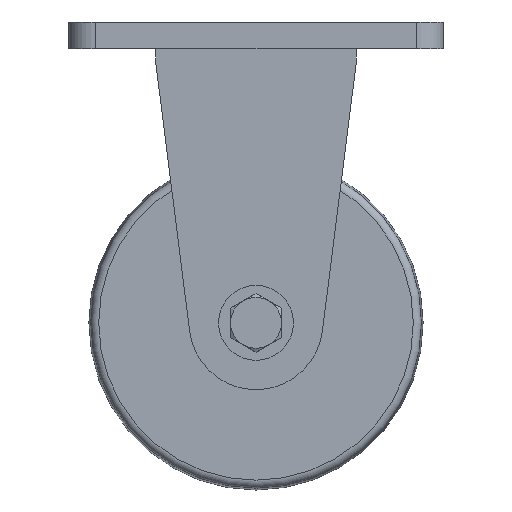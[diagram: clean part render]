
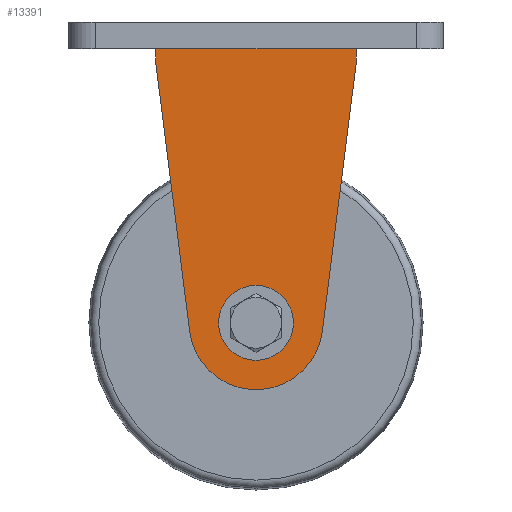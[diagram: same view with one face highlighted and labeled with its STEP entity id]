
A CAD part, front view. The second image highlights one B-rep face of the part: STEP entity #13391.
In plain terms, the highlighted planar face has unit normal (0, -1, 0).
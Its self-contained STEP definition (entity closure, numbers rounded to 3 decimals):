
#653=CARTESIAN_POINT('',(60.051,-119.818,-43.75));
#654=VERTEX_POINT('',#653);
#655=CARTESIAN_POINT('',(74.051,-119.818,-43.75));
#656=DIRECTION('',(0.0,1.0,0.0));
#657=DIRECTION('',(1.0,0.0,0.0));
#658=AXIS2_PLACEMENT_3D('',#655,#656,#657);
#659=CIRCLE('',#658,14.);
#660=EDGE_CURVE('',#654,#654,#659,.T.);
#13209=CARTESIAN_POINT('',(111.551,-119.818,58.75));
#13210=VERTEX_POINT('',#13209);
#13211=CARTESIAN_POINT('',(111.551,-119.818,53.75));
#13212=VERTEX_POINT('',#13211);
#13213=CARTESIAN_POINT('',(111.551,-119.818,58.75));
#13214=DIRECTION('',(0.0,0.0,-1.0));
#13215=VECTOR('',#13214,5.);
#13216=LINE('',#13213,#13215);
#13217=EDGE_CURVE('',#13210,#13212,#13216,.T.);
#13249=CARTESIAN_POINT('',(98.855,-119.818,-46.879));
#13250=VERTEX_POINT('',#13249);
#13251=CARTESIAN_POINT('',(111.551,-119.818,53.75));
#13252=DIRECTION('',(-0.125,0.0,-0.992));
#13253=VECTOR('',#13252,101.427);
#13254=LINE('',#13251,#13253);
#13255=EDGE_CURVE('',#13212,#13250,#13254,.T.);
#13280=CARTESIAN_POINT('',(49.248,-119.818,-46.879));
#13281=VERTEX_POINT('',#13280);
#13282=CARTESIAN_POINT('',(74.051,-119.818,-43.75));
#13283=DIRECTION('',(0.0,1.0,0.0));
#13284=DIRECTION('',(1.0,0.0,0.0));
#13285=AXIS2_PLACEMENT_3D('',#13282,#13283,#13284);
#13286=CIRCLE('',#13285,25.0);
#13287=EDGE_CURVE('',#13250,#13281,#13286,.T.);
#13313=CARTESIAN_POINT('',(36.551,-119.818,53.75));
#13314=VERTEX_POINT('',#13313);
#13315=CARTESIAN_POINT('',(49.248,-119.818,-46.879));
#13316=DIRECTION('',(-0.125,0.0,0.992));
#13317=VECTOR('',#13316,101.427);
#13318=LINE('',#13315,#13317);
#13319=EDGE_CURVE('',#13281,#13314,#13318,.T.);
#13344=CARTESIAN_POINT('',(36.551,-119.818,58.75));
#13345=VERTEX_POINT('',#13344);
#13346=CARTESIAN_POINT('',(36.551,-119.818,53.75));
#13347=DIRECTION('',(0.0,0.0,1.0));
#13348=VECTOR('',#13347,5.);
#13349=LINE('',#13346,#13348);
#13350=EDGE_CURVE('',#13314,#13345,#13349,.T.);
#13370=CARTESIAN_POINT('',(74.051,-119.818,3.787));
#13371=DIRECTION('',(0.0,-1.0,0.0));
#13372=DIRECTION('',(0.0,0.0,-1.0));
#13373=AXIS2_PLACEMENT_3D('',#13370,#13371,#13372);
#13374=PLANE('',#13373);
#13375=CARTESIAN_POINT('',(36.551,-119.818,58.75));
#13376=DIRECTION('',(1.0,0.0,0.0));
#13377=VECTOR('',#13376,75.);
#13378=LINE('',#13375,#13377);
#13379=EDGE_CURVE('',#13345,#13210,#13378,.T.);
#13380=ORIENTED_EDGE('',*,*,#13379,.F.);
#13381=ORIENTED_EDGE('',*,*,#13350,.F.);
#13382=ORIENTED_EDGE('',*,*,#13319,.F.);
#13383=ORIENTED_EDGE('',*,*,#13287,.F.);
#13384=ORIENTED_EDGE('',*,*,#13255,.F.);
#13385=ORIENTED_EDGE('',*,*,#13217,.F.);
#13386=EDGE_LOOP('',(#13380,#13381,#13382,#13383,#13384,#13385));
#13387=FACE_OUTER_BOUND('',#13386,.T.);
#13388=ORIENTED_EDGE('',*,*,#660,.T.);
#13389=EDGE_LOOP('',(#13388));
#13390=FACE_BOUND('',#13389,.T.);
#13391=ADVANCED_FACE('',(#13387,#13390),#13374,.T.);
